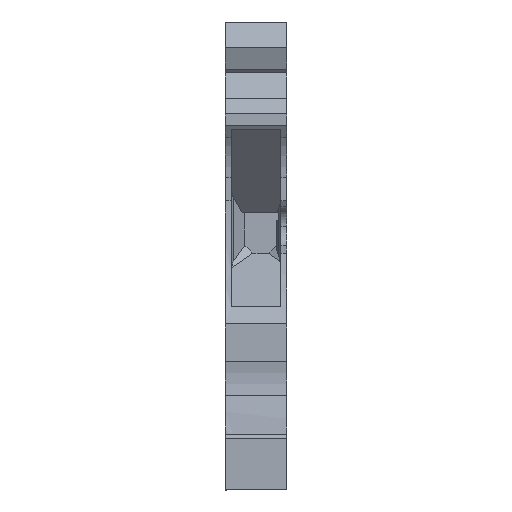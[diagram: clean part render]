
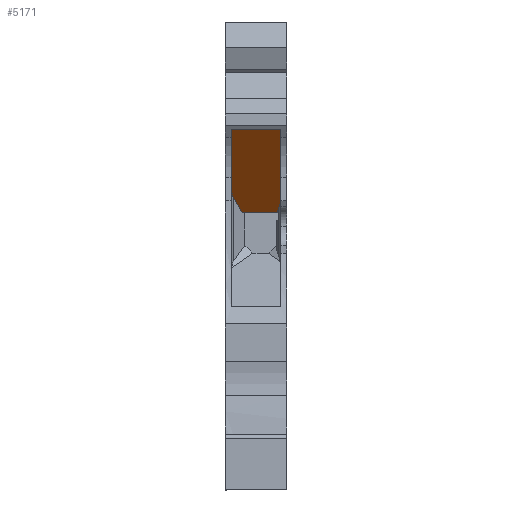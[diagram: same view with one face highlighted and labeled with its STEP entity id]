
A CAD part, front view. The second image highlights one B-rep face of the part: STEP entity #5171.
In plain terms, the highlighted planar face has unit normal (0, -0.715, -0.699).
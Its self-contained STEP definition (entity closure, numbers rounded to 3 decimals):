
#4532=CARTESIAN_POINT('',(5.55,2.428,36.125));
#4533=VERTEX_POINT('',#4532);
#4540=CARTESIAN_POINT('',(0.6,2.428,36.125));
#4541=VERTEX_POINT('',#4540);
#4542=CARTESIAN_POINT('',(5.55,2.428,36.125));
#4543=DIRECTION('',(-1.,0.,0.));
#4544=VECTOR('',#4543,4.95);
#4545=LINE('',#4542,#4544);
#4546=EDGE_CURVE('',#4533,#4541,#4545,.T.);
#4653=CARTESIAN_POINT('',(1.678,10.605,27.757));
#4654=VERTEX_POINT('',#4653);
#4661=CARTESIAN_POINT('',(0.868,9.201,29.194));
#4662=VERTEX_POINT('',#4661);
#4663=CARTESIAN_POINT('',(0.868,9.201,29.194));
#4664=DIRECTION('',(0.374,0.648,-0.663));
#4665=VECTOR('',#4664,2.166);
#4666=LINE('',#4663,#4665);
#4667=EDGE_CURVE('',#4662,#4654,#4666,.T.);
#4981=CARTESIAN_POINT('',(5.176,10.605,27.757));
#4982=VERTEX_POINT('',#4981);
#4989=CARTESIAN_POINT('',(5.176,10.605,27.757));
#4990=DIRECTION('',(-1.,0.,0.));
#4991=VECTOR('',#4990,3.498);
#4992=LINE('',#4989,#4991);
#4993=EDGE_CURVE('',#4982,#4654,#4992,.T.);
#5031=CARTESIAN_POINT('',(0.6,8.201,30.217));
#5032=VERTEX_POINT('',#5031);
#5039=CARTESIAN_POINT('',(0.6,8.201,30.217));
#5040=CARTESIAN_POINT('',(0.6,8.554,29.856));
#5041=CARTESIAN_POINT('',(0.691,8.895,29.507));
#5042=CARTESIAN_POINT('',(0.868,9.201,29.194));
#5043=(BOUNDED_CURVE()B_SPLINE_CURVE(3,(#5039,#5040,#5041,#5042),.UNSPECIFIED.,.F.,.U.)B_SPLINE_CURVE_WITH_KNOTS((4,4),(0.,1.),.UNSPECIFIED.)CURVE()GEOMETRIC_REPRESENTATION_ITEM()RATIONAL_B_SPLINE_CURVE((1.,0.977,0.977,1.))REPRESENTATION_ITEM(''));
#5044=EDGE_CURVE('',#5032,#4662,#5043,.T.);
#5055=CARTESIAN_POINT('',(5.363,10.101,28.273));
#5056=VERTEX_POINT('',#5055);
#5063=CARTESIAN_POINT('',(5.55,9.058,29.34));
#5064=VERTEX_POINT('',#5063);
#5065=CARTESIAN_POINT('',(5.363,10.101,28.273));
#5066=CARTESIAN_POINT('',(5.487,9.766,28.615));
#5067=CARTESIAN_POINT('',(5.55,9.415,28.975));
#5068=CARTESIAN_POINT('',(5.55,9.058,29.34));
#5069=(BOUNDED_CURVE()B_SPLINE_CURVE(3,(#5065,#5066,#5067,#5068),.UNSPECIFIED.,.F.,.U.)B_SPLINE_CURVE_WITH_KNOTS((4,4),(0.,1.),.UNSPECIFIED.)CURVE()GEOMETRIC_REPRESENTATION_ITEM()RATIONAL_B_SPLINE_CURVE((1.,0.99,0.99,1.))REPRESENTATION_ITEM(''));
#5070=EDGE_CURVE('',#5056,#5064,#5069,.T.);
#5102=CARTESIAN_POINT('',(5.363,10.101,28.273));
#5103=DIRECTION('',(-0.251,0.677,-0.692));
#5104=VECTOR('',#5103,0.745);
#5105=LINE('',#5102,#5104);
#5106=EDGE_CURVE('',#5056,#4982,#5105,.T.);
#5146=CARTESIAN_POINT('',(3.075,6.516,31.941));
#5147=DIRECTION('',(-1.,0.,0.));
#5148=DIRECTION('',(0.,0.715,0.699));
#5149=AXIS2_PLACEMENT_3D('',#5146,#5148,#5147);
#5150=PLANE('',#5149);
#5151=CARTESIAN_POINT('',(5.55,9.058,29.34));
#5152=DIRECTION('',(0.,-0.699,0.715));
#5153=VECTOR('',#5152,9.486);
#5154=LINE('',#5151,#5153);
#5155=EDGE_CURVE('',#5064,#4533,#5154,.T.);
#5156=ORIENTED_EDGE('E509',*,*,#5155,.F.);
#5157=ORIENTED_EDGE('E509',*,*,#5070,.F.);
#5158=ORIENTED_EDGE('E509',*,*,#5106,.T.);
#5159=ORIENTED_EDGE('E509',*,*,#4993,.T.);
#5160=ORIENTED_EDGE('E509',*,*,#4667,.F.);
#5161=ORIENTED_EDGE('E509',*,*,#5044,.F.);
#5162=CARTESIAN_POINT('',(0.6,2.428,36.125));
#5163=DIRECTION('',(0.,0.699,-0.715));
#5164=VECTOR('',#5163,8.26);
#5165=LINE('',#5162,#5164);
#5166=EDGE_CURVE('',#4541,#5032,#5165,.T.);
#5167=ORIENTED_EDGE('E510',*,*,#5166,.F.);
#5168=ORIENTED_EDGE('E510',*,*,#4546,.F.);
#5169=EDGE_LOOP('',(#5156,#5157,#5158,#5159,#5160,#5161,#5167,#5168));
#5170=FACE_OUTER_BOUND('',#5169,.F.);
#5171=ADVANCED_FACE('F172',(#5170),#5150,.F.);
